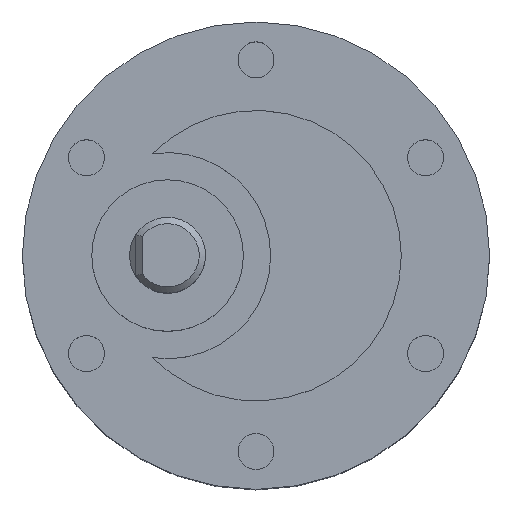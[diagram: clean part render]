
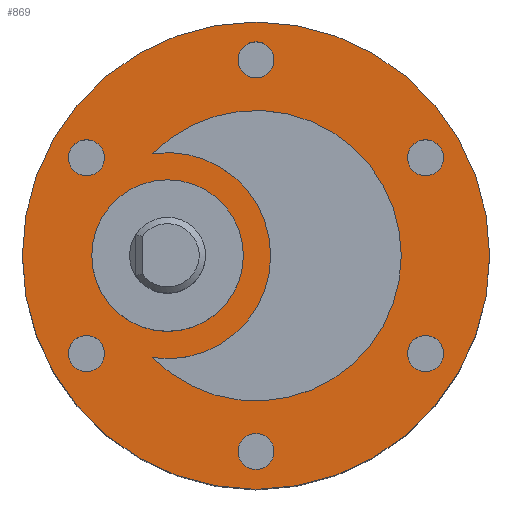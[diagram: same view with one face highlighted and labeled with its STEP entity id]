
A CAD part, top view. The second image highlights one B-rep face of the part: STEP entity #869.
In plain terms, the highlighted planar face has unit normal (0, 0, 1).
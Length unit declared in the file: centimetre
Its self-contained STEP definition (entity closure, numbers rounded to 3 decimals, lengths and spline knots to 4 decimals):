
#317=VERTEX_POINT('',#2698);
#319=VERTEX_POINT('',#2704);
#321=VERTEX_POINT('',#2710);
#323=VERTEX_POINT('',#2716);
#325=VERTEX_POINT('',#2722);
#327=VERTEX_POINT('',#2728);
#336=VERTEX_POINT('',#2764);
#339=VERTEX_POINT('',#2771);
#340=VERTEX_POINT('',#2773);
#343=VERTEX_POINT('',#2786);
#411=EDGE_CURVE('',#317,#317,#1188,.T.);
#413=EDGE_CURVE('',#319,#319,#1190,.T.);
#415=EDGE_CURVE('',#321,#321,#1192,.T.);
#417=EDGE_CURVE('',#323,#323,#1194,.T.);
#419=EDGE_CURVE('',#325,#325,#1196,.T.);
#421=EDGE_CURVE('',#327,#327,#1198,.T.);
#434=EDGE_CURVE('',#336,#336,#1203,.T.);
#437=EDGE_CURVE('',#340,#339,#1205,.T.);
#440=EDGE_CURVE('',#339,#340,#1207,.T.);
#443=EDGE_CURVE('',#343,#343,#1210,.T.);
#632=ORIENTED_EDGE('',*,*,#411,.T.);
#633=ORIENTED_EDGE('',*,*,#413,.T.);
#634=ORIENTED_EDGE('',*,*,#415,.T.);
#635=ORIENTED_EDGE('',*,*,#417,.T.);
#636=ORIENTED_EDGE('',*,*,#419,.T.);
#637=ORIENTED_EDGE('',*,*,#421,.T.);
#638=ORIENTED_EDGE('',*,*,#434,.T.);
#639=ORIENTED_EDGE('',*,*,#437,.T.);
#640=ORIENTED_EDGE('',*,*,#440,.T.);
#641=ORIENTED_EDGE('',*,*,#443,.F.);
#719=EDGE_LOOP('',(#632));
#720=EDGE_LOOP('',(#633));
#721=EDGE_LOOP('',(#634));
#722=EDGE_LOOP('',(#635));
#723=EDGE_LOOP('',(#636));
#724=EDGE_LOOP('',(#637));
#725=EDGE_LOOP('',(#638));
#726=EDGE_LOOP('',(#639,#640));
#727=EDGE_LOOP('',(#641));
#805=FACE_BOUND('',#719,.T.);
#806=FACE_BOUND('',#720,.T.);
#807=FACE_BOUND('',#721,.T.);
#808=FACE_BOUND('',#722,.T.);
#809=FACE_BOUND('',#723,.T.);
#810=FACE_BOUND('',#724,.T.);
#811=FACE_BOUND('',#725,.T.);
#812=FACE_BOUND('',#726,.T.);
#813=FACE_BOUND('',#727,.T.);
#869=ADVANCED_FACE('',(#805,#806,#807,#808,#809,#810,#811,#812,#813),#2011,
 .T.);
#1188=CIRCLE('',#1817,0.1425);
#1190=CIRCLE('',#1821,0.1425);
#1192=CIRCLE('',#1825,0.1425);
#1194=CIRCLE('',#1829,0.1425);
#1196=CIRCLE('',#1833,0.1425);
#1198=CIRCLE('',#1837,0.1425);
#1203=CIRCLE('',#1851,0.6);
#1205=CIRCLE('',#1855,1.15);
#1207=CIRCLE('',#1858,0.8161);
#1210=CIRCLE('',#1864,1.85);
#1817=AXIS2_PLACEMENT_3D('',#2697,#2290,#2291);
#1821=AXIS2_PLACEMENT_3D('',#2703,#2297,#2298);
#1825=AXIS2_PLACEMENT_3D('',#2709,#2304,#2305);
#1829=AXIS2_PLACEMENT_3D('',#2715,#2311,#2312);
#1833=AXIS2_PLACEMENT_3D('',#2721,#2318,#2319);
#1837=AXIS2_PLACEMENT_3D('',#2727,#2325,#2326);
#1851=AXIS2_PLACEMENT_3D('',#2763,#2353,#2354);
#1855=AXIS2_PLACEMENT_3D('',#2772,#2361,#2362);
#1858=AXIS2_PLACEMENT_3D('',#2777,#2368,#2369);
#1864=AXIS2_PLACEMENT_3D('',#2785,#2378,#2379);
#1865=AXIS2_PLACEMENT_3D('',#2787,#2380,$);
#2011=PLANE('',#1865);
#2290=DIRECTION('',(0.,0.,-1.));
#2291=DIRECTION('',(0.,0.143,0.));
#2297=DIRECTION('',(0.,0.,-1.));
#2298=DIRECTION('',(0.,0.143,0.));
#2304=DIRECTION('',(0.,0.,-1.));
#2305=DIRECTION('',(0.,0.143,0.));
#2311=DIRECTION('',(0.,0.,-1.));
#2312=DIRECTION('',(0.,0.143,0.));
#2318=DIRECTION('',(0.,0.,-1.));
#2319=DIRECTION('',(0.,0.143,0.));
#2325=DIRECTION('',(0.,0.,-1.));
#2326=DIRECTION('',(0.,0.143,0.));
#2353=DIRECTION('',(0.,0.,-1.));
#2354=DIRECTION('',(0.6,0.,0.));
#2361=DIRECTION('',(0.,0.,-1.));
#2362=DIRECTION('',(1.15,0.,0.));
#2368=DIRECTION('',(0.,0.,1.));
#2369=DIRECTION('',(0.816,0.,0.));
#2378=DIRECTION('',(0.,0.,-1.));
#2379=DIRECTION('',(1.85,0.,0.));
#2380=DIRECTION('',(0.,0.,1.));
#2697=CARTESIAN_POINT('',(-1.3423,0.775,8.6));
#2698=CARTESIAN_POINT('',(-1.3423,0.9175,8.6));
#2703=CARTESIAN_POINT('',(-1.3423,-0.775,8.6));
#2704=CARTESIAN_POINT('',(-1.3423,-0.6325,8.6));
#2709=CARTESIAN_POINT('',(0.,-1.55,8.6));
#2710=CARTESIAN_POINT('',(0.,-1.4075,8.6));
#2715=CARTESIAN_POINT('',(1.3423,-0.775,8.6));
#2716=CARTESIAN_POINT('',(1.3423,-0.6325,8.6));
#2721=CARTESIAN_POINT('',(1.3423,0.775,8.6));
#2722=CARTESIAN_POINT('',(1.3423,0.9175,8.6));
#2727=CARTESIAN_POINT('',(0.,1.55,8.6));
#2728=CARTESIAN_POINT('',(0.,1.6925,8.6));
#2763=CARTESIAN_POINT('',(-0.7,0.,8.6));
#2764=CARTESIAN_POINT('',(-0.1,0.,8.6));
#2771=CARTESIAN_POINT('',(-0.819,-0.8074,8.6));
#2772=CARTESIAN_POINT('',(0.,0.,8.6));
#2773=CARTESIAN_POINT('',(-0.819,0.8074,8.6));
#2777=CARTESIAN_POINT('',(-0.7,0.,8.6));
#2785=CARTESIAN_POINT('',(0.,0.,8.6));
#2786=CARTESIAN_POINT('',(1.85,0.,8.6));
#2787=CARTESIAN_POINT('',(0.,0.,8.6));
